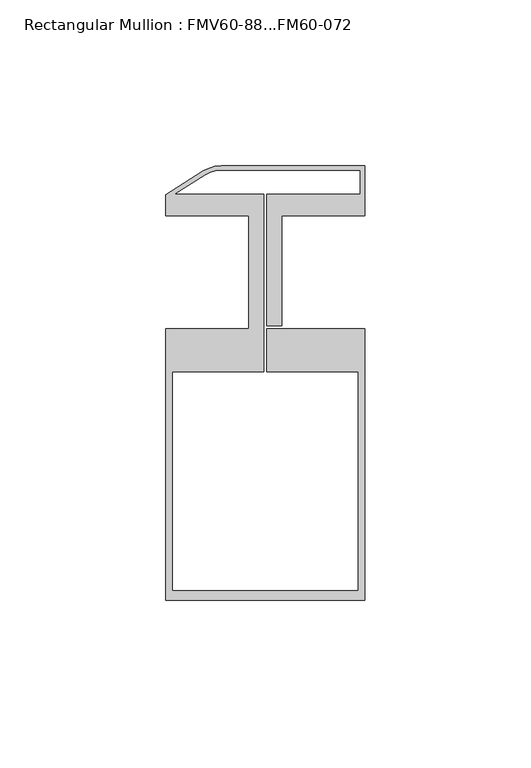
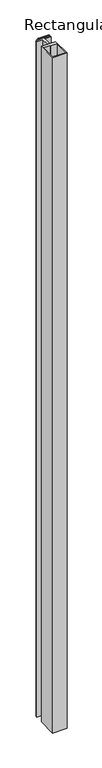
"""IFC4 building model written with IfcOpenShell, lengths in millimetres: member geometry, Rectangular Mullion : FMV60-88...FM60-072."""

from ifc_helpers import new_model, si_unit, point, frame, frame_2d, origin, place, context, project, spatial, polyline, circle_curve, trimmed, segment, composite_curve, outline, extrude, source, transform, mapped, element, save


def rectangular_mullion_fmv60_88_fm60_072_44b3a92c(model_context):
    return source(origin(), model_context, "Body", "SweptSolid", [
        extrude(outline(composite_curve([segment(polyline([(-13.300836, 32.0924459), (30.0, 32.0924459), (30.0, 17.0000664), (5.0004903, 17.0000664), (5.0004903, -16.1999336), (0.5, -16.1999336), (0.5, 23.4439745), (28.7000412, 23.4439745), (28.7000412, 30.7039104), (-13.4414405, 30.7039104)]), True, "CONTINUOUS"), segment(trimmed(circle_curve(frame_2d((-13.4414405, 22.0039104)), 8.7), [point((-13.4414405, 30.7039104))], [point((-18.0771682, 29.3659773))], True, "CARTESIAN"), True, "CONTINUOUS"), segment(polyline([(-18.0771682, 29.3659773), (-27.4819874, 23.4439745), (-0.5, 23.4439745), (-0.5, -29.9945135), (-28.0, -29.9945135), (-28.0, -95.9989913), (28.0, -95.9989913), (28.0, -29.9945135), (0.5, -29.9945135), (0.5, -16.9999336), (30.0, -16.9999336), (30.0, -98.9989913), (-30.0, -98.9989913), (-30.0, -16.9999336), (-4.9995097, -16.9999336), (-4.9995097, 17.0000664), (-30.0, 17.0000664), (-30.0, 23.3946921), (-18.6292586, 30.5545918)]), True, "CONTINUOUS"), segment(trimmed(circle_curve(frame_2d((-13.300836, 22.0924459)), 10.0), [point((-18.6292586, 30.5545918))], [point((-13.300836, 32.0924459))], False, "CARTESIAN"), True, "CONTINUOUS")], self_intersect=False)), frame((0.0, 0.0, -3000.0), z_axis=(0.0, 0.0, 1.0), x_axis=(1.0, 0.0, 0.0)), (0.0, 0.0, 1.0), 3000.0),
    ])


if __name__ == "__main__":
    model = new_model("IFC4")
    model_context = context("Model", 3, world=origin())
    ifc_project = project(units=[si_unit("LENGTHUNIT", "METRE", prefix="MILLI")], contexts=[model_context])
    site = spatial("IfcSite", under=ifc_project)
    building = spatial("IfcBuilding", under=site)
    placement = place(None, origin())
    rectangular_mullion_fmv60_88_fm60_072_shape = rectangular_mullion_fmv60_88_fm60_072_44b3a92c(model_context)
    element("IfcMember", 1, ObjectType="Rectangular Mullion : FMV60-88...FM60-072", at=placement, inside=building, context=model_context, shape_type="MappedRepresentation", body=[
        mapped(rectangular_mullion_fmv60_88_fm60_072_shape, transform((0.0, 0.0, 0.0), x_axis=(1.0, 0.0, 0.0), y_axis=(0.0, 1.0, 0.0), z_axis=(0.0, 0.0, 1.0))),
    ])
    save(model, "model.ifc")
